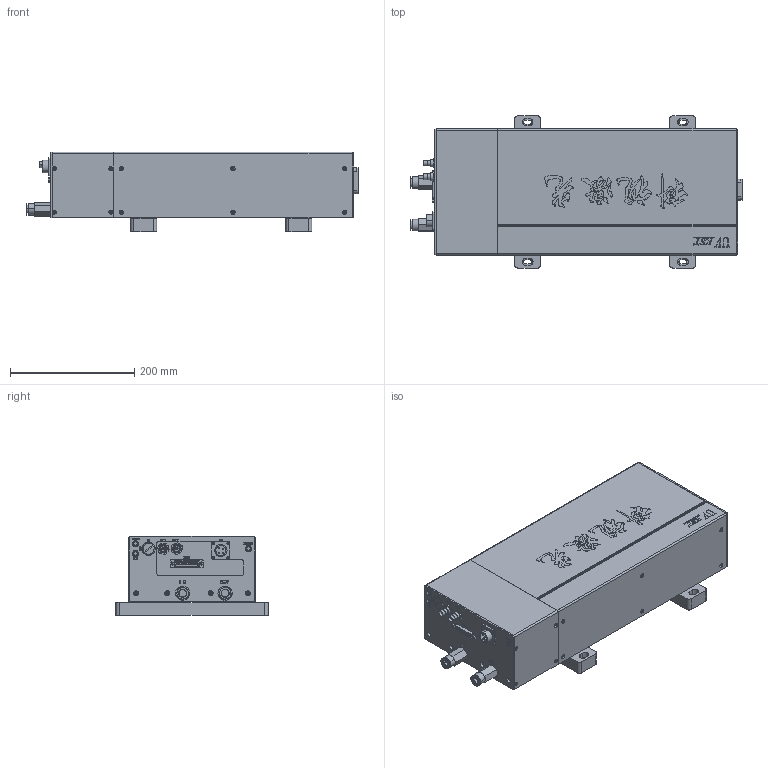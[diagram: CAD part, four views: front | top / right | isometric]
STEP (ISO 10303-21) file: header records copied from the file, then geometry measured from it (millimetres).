
FILE_DESCRIPTION (( 'STEP AP203' ), '1' );
FILE_NAME ('22W喜渡芞-酗.STEP', '2025-04-12T01:30:09', ( '' ), ( '' ), 'SwSTEP 2.0', 'SolidWorks 2016', '' );
FILE_SCHEMA (( 'CONFIG_CONTROL_DESIGN' ));
Length unit declared in the file: millimetre
Products named in the file (1): 22W喜渡芞-酗
Bounding box: 534.76 x 245 x 128 mm (x, y, z)
Volume: 9642796.5 mm3; surface area: 1116312.4 mm2
Topology: 34 solids, 42 shells, 2736 faces, 6887 edges, 4373 vertices
Faces by surface type: plane 1028, cylinder 970, bspline 425, cone 268, torus 33, sphere 12
Entity records: 101368 total; most frequent: CARTESIAN_POINT 37356, ORIENTED_EDGE 13382, DIRECTION 12505, EDGE_CURVE 6691, AXIS2_PLACEMENT_3D 4406, VERTEX_POINT 4365, LINE 3693, VECTOR 3693
